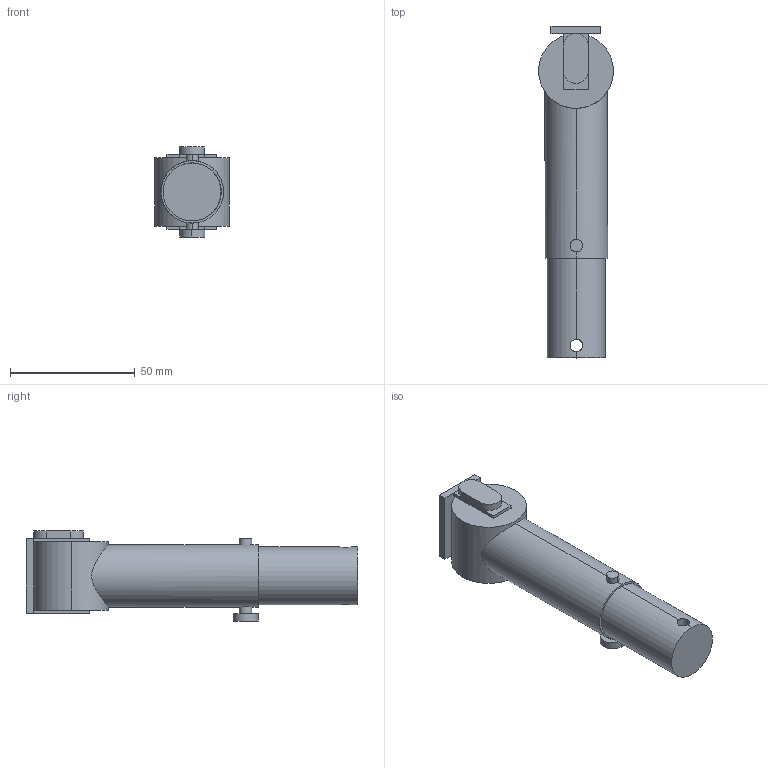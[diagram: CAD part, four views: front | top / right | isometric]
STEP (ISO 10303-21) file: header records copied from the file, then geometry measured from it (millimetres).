
FILE_DESCRIPTION (( 'STEP AP214' ), '1' );
FILE_NAME ('Assembly.STEP', '2021-10-04T10:29:38', ( '' ), ( '' ), 'SwSTEP 2.0', 'SolidWorks 2021', '' );
FILE_SCHEMA (( 'AUTOMOTIVE_DESIGN' ));
Length unit declared in the file: millimetre
Products named in the file (6): Pin; Rotating Cylinder; Combined Pin; Top Part; Assembly; Bottom Part
Assembly tree (5 placements, depth 2):
  Assembly
    Bottom Part
    Rotating Cylinder
    Top Part
    Combined Pin
    Pin
Bounding box: 30 x 133.01 x 36.09 mm (x, y, z)
Volume: 47639.4 mm3; surface area: 23981.7 mm2
Topology: 5 solids, 5 shells, 70 faces, 185 edges, 122 vertices
Faces by surface type: cylinder 40, plane 30
Entity records: 3093 total; most frequent: CARTESIAN_POINT 1093, ORIENTED_EDGE 370, DIRECTION 363, EDGE_CURVE 185, AXIS2_PLACEMENT_3D 136, VERTEX_POINT 122, VECTOR 91, LINE 91
